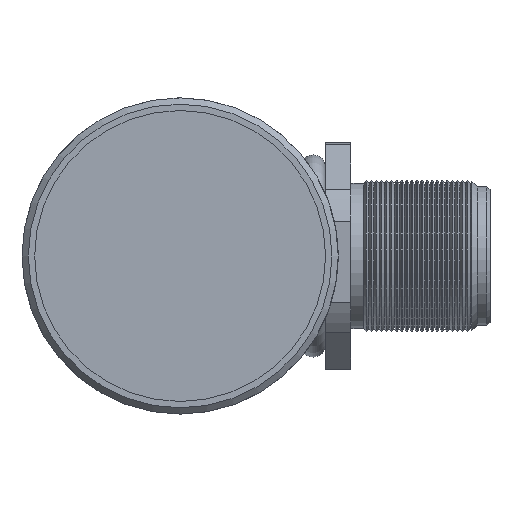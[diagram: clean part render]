
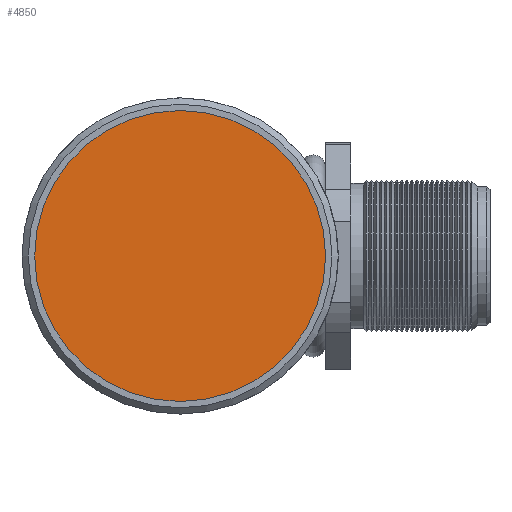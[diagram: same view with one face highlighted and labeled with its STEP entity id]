
A CAD part, left-side view. The second image highlights one B-rep face of the part: STEP entity #4850.
In plain terms, the highlighted planar face has unit normal (-1, 0, 0).
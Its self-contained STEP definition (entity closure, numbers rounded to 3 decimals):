
#513=PLANE('',#5222);
#1207=CIRCLE('',#5221,11.5);
#1580=VERTEX_POINT('',#7336);
#2149=EDGE_CURVE('',#1580,#1580,#1207,.T.);
#2977=ORIENTED_EDGE('',*,*,#2149,.T.);
#3965=EDGE_LOOP('',(#2977));
#4416=FACE_BOUND('',#3965,.T.);
#4850=ADVANCED_FACE('',(#4416),#513,.F.);
#5221=AXIS2_PLACEMENT_3D('',#7335,#5895,#5896);
#5222=AXIS2_PLACEMENT_3D('',#7337,#5897,$);
#5895=DIRECTION('',(-1.,0.,0.));
#5896=DIRECTION('',(0.,0.,-11.5));
#5897=DIRECTION('',(1.,0.,0.));
#7335=CARTESIAN_POINT('',(-39.,0.,0.));
#7336=CARTESIAN_POINT('',(-39.,0.,-11.5));
#7337=CARTESIAN_POINT('',(-39.,0.,0.));
